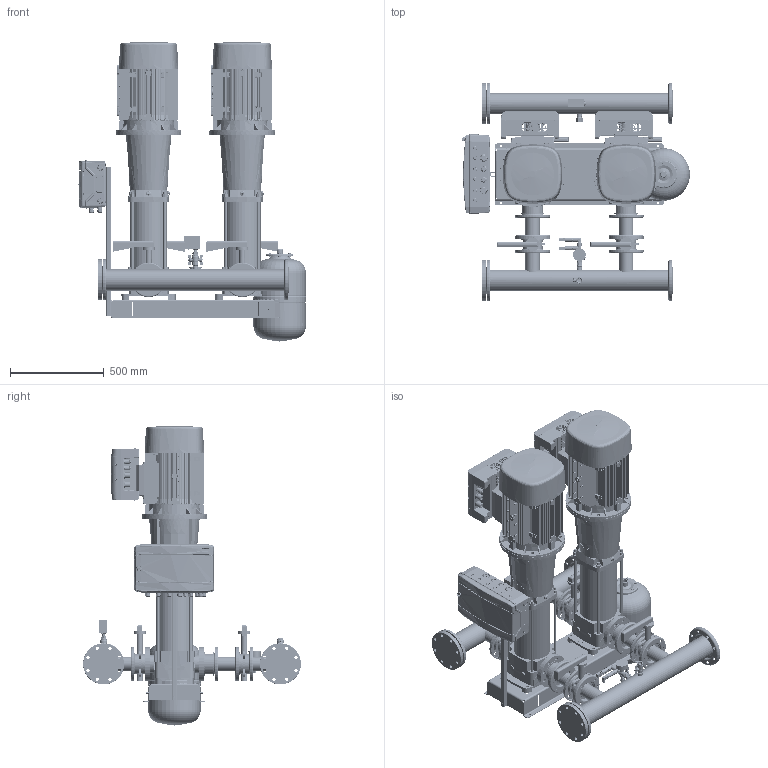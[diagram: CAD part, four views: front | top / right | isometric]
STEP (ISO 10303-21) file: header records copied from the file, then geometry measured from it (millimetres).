
FILE_DESCRIPTION(('CATIA V5 STEP Exchange','CAx-IF Rec.Pracs.--- Model Styling and Organization---1.4--- 2014-01-23','CAx-IF Rec.Pracs.---3D Tessellated Data Validation Properties---0.5---2014-09-14'),'2;1');
FILE_NAME('C:\Users\78432\YandexDisk\Drawings and 3D\3D Hydro Booster\Hydro-ME 3D\Hydro Models\Hydro ME 2 CRV32-xx\Hydro ME 2 CRVE32-5.stp','2023-09-20T13:34:14+00:00',('none'),('none'),'CATIA Version 5-6 Release 2019 SP6','CATIA V5 STEP AP242 v1','none');
FILE_SCHEMA(('AP242_MANAGED_MODEL_BASED_3D_ENGINEERING_MIM_LF {1 0 10303 442 1 1 4}'));
Products named in the file (52): Hydro ME 2 CRVE32-5; 92051011; CRV32-5 set; CRV 32-5_A_DIN_11kW; Base; Flange.1; Flange.2; Sleeve; Pumphead; Staybolt.1; Staybolt.2; Staybolt.3; Staybolt.4; AirVent; Motor; Plug; Non-Return Valve DN65 cpl.; 92802786; 00id2586; Buttefly Valve DN65 cpl.; 92802749; 96619619; 91040447; 91070072; 99110036; SAJ PDH30 11-18,5kW; 97941447; 405801; 91041068; 91070074; 97941484; 99110038; 00ID6959; Holder and CP 18mod; 92878909; Control ME (18mod); 2 sensors + manometer cpl.; manometr 16 bar; RPD-I-G1_2; 9021-01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
Assembly tree (69 placements, depth 4):
  Hydro ME 2 CRVE32-5
    92051011
    CRV32-5 set  x2
      CRV 32-5_A_DIN_11kW
        Base
        Flange.1
        Flange.2
        Sleeve
        Pumphead
        Staybolt.1
        Staybolt.2
        Staybolt.3
        Staybolt.4
        AirVent
        Motor
        Plug
      Non-Return Valve DN65 cpl.
        92802786
        00id2586  x2
      Buttefly Valve DN65 cpl.
        92802749
        00id2586  x2
      96619619
        91040447
        91070072  x2
        99110036  x2
      SAJ PDH30 11-18,5kW
    97941447  x2
      405801
      91041068
      91070072
      91070074
      97941484
      99110036
      99110038
    00ID6959  x2
    Holder and CP 18mod
      92878909
      Control ME (18mod)
    2 sensors + manometer cpl.
      manometr 16 bar
      RPD-I-G1_2  x2
      9021-01
      2070 1/2-1/2
      _2020 1/2-1/2
      98594078
    Tank 24L cpl.
      DN20_FF_BF_47.300.20
      9021-03
    Relay cpl.
      Relay RD-2R
      DN20_FF_BF_47.300.20
      2530 3/4-1/2
      _2530 1/2-1/4
    91078139
  WAV-24(D140 1'')
Bounding box: 1216.82 x 1164.37 x 1605.85 mm (x, y, z)
Volume: 186945189.3 mm3; surface area: 14813060.6 mm2
Topology: 200 solids, 3152 shells, 29997 faces, 95060 edges, 69324 vertices
Faces by surface type: plane 14528, bspline 7058, cylinder 6515, cone 1253, torus 470, sphere 133, extrusion 40
Entity records: 788059 total; most frequent: CARTESIAN_POINT 370331, ORIENTED_EDGE 101653, EDGE_CURVE 55397, DIRECTION 50459, VERTEX_POINT 39809, VECTOR 27462, LINE 27442, EDGE_LOOP 19828
